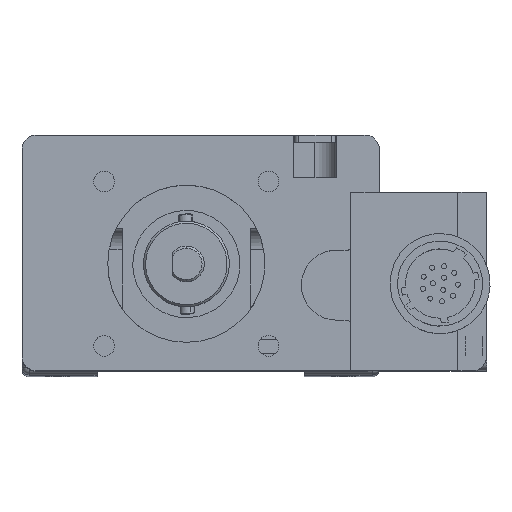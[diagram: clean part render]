
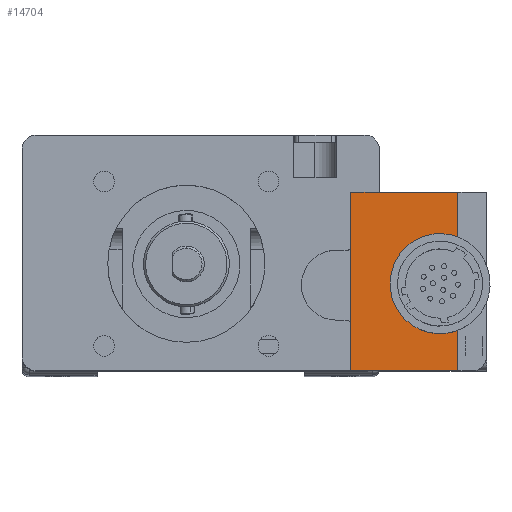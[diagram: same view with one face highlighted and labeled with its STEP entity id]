
A CAD part, top view. The second image highlights one B-rep face of the part: STEP entity #14704.
In plain terms, the highlighted planar face has unit normal (0, 0, 1).
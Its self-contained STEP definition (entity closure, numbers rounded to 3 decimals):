
#2173 = ORIENTED_EDGE ( 'NONE', *, *, #56917, .F. ) ;
#2308 = EDGE_CURVE ( 'NONE', #149943, #87191, #123219, .T. ) ;
#5366 = DIRECTION ( 'NONE',  ( -1., 0., 0. ) ) ;
#8598 = CARTESIAN_POINT ( 'NONE',  ( 21., 7.1, 198. ) ) ;
#9969 = CARTESIAN_POINT ( 'NONE',  ( 33.5, 12.5, 198. ) ) ;
#14704 = ADVANCED_FACE ( 'NONE', ( #98928 ), #168587, .F. ) ;
#17097 = VERTEX_POINT ( 'NONE', #54646 ) ;
#18530 = VERTEX_POINT ( 'NONE', #181026 ) ;
#21181 = DIRECTION ( 'NONE',  ( 0., 0., 1. ) ) ;
#22444 = EDGE_CURVE ( 'NONE', #162867, #31520, #135686, .T. ) ;
#24288 = LINE ( 'NONE', #180276, #151000 ) ;
#25023 = LINE ( 'NONE', #167079, #67372 ) ;
#25444 = ORIENTED_EDGE ( 'NONE', *, *, #2308, .T. ) ;
#30121 = CARTESIAN_POINT ( 'NONE',  ( 36., 0.5, 198. ) ) ;
#31399 = ORIENTED_EDGE ( 'NONE', *, *, #22444, .F. ) ;
#31520 = VERTEX_POINT ( 'NONE', #39286 ) ;
#31785 = AXIS2_PLACEMENT_3D ( 'NONE', #73801, #126795, #141622 ) ;
#35650 = ORIENTED_EDGE ( 'NONE', *, *, #60259, .F. ) ;
#39286 = CARTESIAN_POINT ( 'NONE',  ( 33.5, 19., 198. ) ) ;
#39873 = DIRECTION ( 'NONE',  ( 0., -1., 0. ) ) ;
#41110 = CIRCLE ( 'NONE', #79678, 6.5 ) ;
#47464 = CARTESIAN_POINT ( 'NONE',  ( 38., 25.5, 198. ) ) ;
#52971 = EDGE_CURVE ( 'NONE', #119697, #182790, #25023, .T. ) ;
#53022 = CARTESIAN_POINT ( 'NONE',  ( 33.5, 12.5, 198. ) ) ;
#54646 = CARTESIAN_POINT ( 'NONE',  ( 21., 0.5, 198. ) ) ;
#56917 = EDGE_CURVE ( 'NONE', #149943, #162867, #144590, .T. ) ;
#60259 = EDGE_CURVE ( 'NONE', #173119, #17097, #60748, .T. ) ;
#60748 = LINE ( 'NONE', #117413, #107434 ) ;
#65626 = ORIENTED_EDGE ( 'NONE', *, *, #104301, .T. ) ;
#67372 = VECTOR ( 'NONE', #39873, 1000. ) ;
#67818 = DIRECTION ( 'NONE',  ( 0., -1., 0. ) ) ;
#69641 = DIRECTION ( 'NONE',  ( 0., 0., 1. ) ) ;
#71717 = DIRECTION ( 'NONE',  ( 0., -1., 0. ) ) ;
#73801 = CARTESIAN_POINT ( 'NONE',  ( 38., 25.5, 198. ) ) ;
#77442 = EDGE_CURVE ( 'NONE', #182790, #17097, #79939, .T. ) ;
#77476 = ORIENTED_EDGE ( 'NONE', *, *, #119124, .F. ) ;
#79678 = AXIS2_PLACEMENT_3D ( 'NONE', #53022, #69641, #99364 ) ;
#79939 = LINE ( 'NONE', #94812, #104951 ) ;
#82719 = DIRECTION ( 'NONE',  ( 0., 0., 1. ) ) ;
#86584 = CARTESIAN_POINT ( 'NONE',  ( 21., 25.5, 198. ) ) ;
#87111 = CARTESIAN_POINT ( 'NONE',  ( 38., 25.5, 198. ) ) ;
#87191 = VERTEX_POINT ( 'NONE', #148335 ) ;
#91525 = EDGE_CURVE ( 'NONE', #31520, #105904, #157000, .T. ) ;
#94812 = CARTESIAN_POINT ( 'NONE',  ( 21., 25.5, 198. ) ) ;
#94887 = CARTESIAN_POINT ( 'NONE',  ( 36., 18.5, 198. ) ) ;
#95386 = DIRECTION ( 'NONE',  ( -1., 0., 0. ) ) ;
#95754 = CARTESIAN_POINT ( 'NONE',  ( 36., 25.5, 198. ) ) ;
#96695 = ORIENTED_EDGE ( 'NONE', *, *, #162885, .T. ) ;
#98928 = FACE_OUTER_BOUND ( 'NONE', #147130, .T. ) ;
#99364 = DIRECTION ( 'NONE',  ( 0., 1., 0. ) ) ;
#100201 = CARTESIAN_POINT ( 'NONE',  ( 21., 25.5, 198. ) ) ;
#102851 = CARTESIAN_POINT ( 'NONE',  ( 21., 17.9, 198. ) ) ;
#102924 = LINE ( 'NONE', #87111, #119033 ) ;
#104301 = EDGE_CURVE ( 'NONE', #87191, #166595, #102924, .T. ) ;
#104951 = VECTOR ( 'NONE', #67818, 1000. ) ;
#105904 = VERTEX_POINT ( 'NONE', #109151 ) ;
#107434 = VECTOR ( 'NONE', #175881, 1000. ) ;
#108839 = EDGE_CURVE ( 'NONE', #166595, #119697, #116311, .T. ) ;
#109151 = CARTESIAN_POINT ( 'NONE',  ( 33.5, 6., 198. ) ) ;
#116311 = LINE ( 'NONE', #86584, #149463 ) ;
#117413 = CARTESIAN_POINT ( 'NONE',  ( 38., 0.5, 198. ) ) ;
#118589 = VECTOR ( 'NONE', #156695, 1000. ) ;
#119033 = VECTOR ( 'NONE', #5366, 1000. ) ;
#119124 = EDGE_CURVE ( 'NONE', #105904, #18530, #41110, .T. ) ;
#119697 = VERTEX_POINT ( 'NONE', #102851 ) ;
#119969 = ORIENTED_EDGE ( 'NONE', *, *, #77442, .T. ) ;
#123219 = LINE ( 'NONE', #47464, #182946 ) ;
#124428 = AXIS2_PLACEMENT_3D ( 'NONE', #9969, #21181, #151142 ) ;
#126795 = DIRECTION ( 'NONE',  ( 0., 0., -1. ) ) ;
#132785 = AXIS2_PLACEMENT_3D ( 'NONE', #169091, #82719, #137560 ) ;
#134662 = ORIENTED_EDGE ( 'NONE', *, *, #91525, .F. ) ;
#135686 = CIRCLE ( 'NONE', #132785, 6.5 ) ;
#137560 = DIRECTION ( 'NONE',  ( 0., 1., 0. ) ) ;
#141622 = DIRECTION ( 'NONE',  ( 0., 1., 0. ) ) ;
#144590 = LINE ( 'NONE', #173385, #118589 ) ;
#147130 = EDGE_LOOP ( 'NONE', ( #31399, #2173, #25444, #65626, #149665, #172964, #119969, #35650, #96695, #77476, #134662 ) ) ;
#148335 = CARTESIAN_POINT ( 'NONE',  ( 25., 25.5, 198. ) ) ;
#149463 = VECTOR ( 'NONE', #71717, 1000. ) ;
#149665 = ORIENTED_EDGE ( 'NONE', *, *, #108839, .T. ) ;
#149943 = VERTEX_POINT ( 'NONE', #95754 ) ;
#151000 = VECTOR ( 'NONE', #170008, 1000. ) ;
#151142 = DIRECTION ( 'NONE',  ( 0., 1., 0. ) ) ;
#156695 = DIRECTION ( 'NONE',  ( 0., -1., 0. ) ) ;
#157000 = CIRCLE ( 'NONE', #124428, 6.5 ) ;
#162867 = VERTEX_POINT ( 'NONE', #94887 ) ;
#162885 = EDGE_CURVE ( 'NONE', #173119, #18530, #24288, .T. ) ;
#166595 = VERTEX_POINT ( 'NONE', #100201 ) ;
#167079 = CARTESIAN_POINT ( 'NONE',  ( 21., 25.5, 198. ) ) ;
#168587 = PLANE ( 'NONE',  #31785 ) ;
#169091 = CARTESIAN_POINT ( 'NONE',  ( 33.5, 12.5, 198. ) ) ;
#170008 = DIRECTION ( 'NONE',  ( 0., 1., 0. ) ) ;
#172964 = ORIENTED_EDGE ( 'NONE', *, *, #52971, .T. ) ;
#173119 = VERTEX_POINT ( 'NONE', #30121 ) ;
#173385 = CARTESIAN_POINT ( 'NONE',  ( 36., 25.5, 198. ) ) ;
#175881 = DIRECTION ( 'NONE',  ( -1., 0., 0. ) ) ;
#180276 = CARTESIAN_POINT ( 'NONE',  ( 36., 0.5, 198. ) ) ;
#181026 = CARTESIAN_POINT ( 'NONE',  ( 36., 6.5, 198. ) ) ;
#182790 = VERTEX_POINT ( 'NONE', #8598 ) ;
#182946 = VECTOR ( 'NONE', #95386, 1000. ) ;
